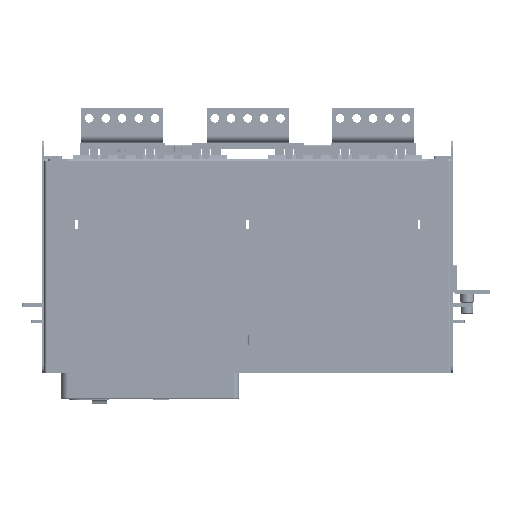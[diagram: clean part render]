
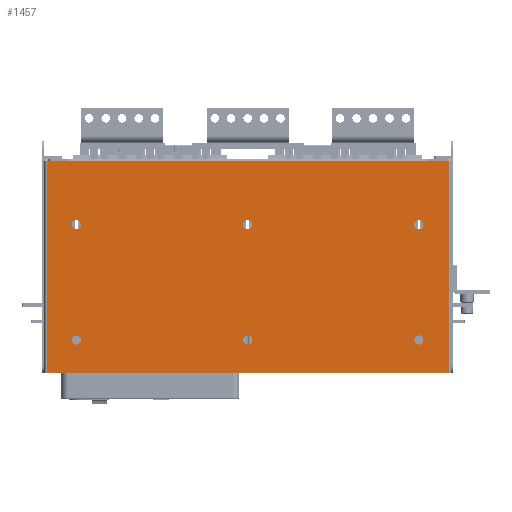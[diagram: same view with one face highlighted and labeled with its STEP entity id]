
A CAD part, front view. The second image highlights one B-rep face of the part: STEP entity #1457.
In plain terms, the highlighted planar face has unit normal (0, -1, 0).
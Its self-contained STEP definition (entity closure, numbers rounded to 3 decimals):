
#161=DIRECTION('',(0.,0.,1.));
#162=VECTOR('',#161,321.743);
#163=CARTESIAN_POINT('',(192.6,-3.2,-160.875));
#164=LINE('',#163,#162);
#169=DIRECTION('',(-1.,0.,0.));
#170=VECTOR('',#169,610.2);
#171=CARTESIAN_POINT('',(192.6,-3.2,-160.875));
#172=LINE('',#171,#170);
#173=CARTESIAN_POINT('',(147.5,-3.2,64.125));
#174=DIRECTION('',(0.,-1.,0.));
#175=DIRECTION('',(-1.,0.,0.));
#176=AXIS2_PLACEMENT_3D('',#173,#174,#175);
#178=CARTESIAN_POINT('',(147.5,-3.2,64.125));
#179=DIRECTION('',(0.,-1.,0.));
#180=DIRECTION('',(1.,0.,0.));
#181=AXIS2_PLACEMENT_3D('',#178,#179,#180);
#183=CARTESIAN_POINT('',(-372.5,-3.2,64.125));
#184=DIRECTION('',(0.,-1.,0.));
#185=DIRECTION('',(-1.,0.,0.));
#186=AXIS2_PLACEMENT_3D('',#183,#184,#185);
#188=CARTESIAN_POINT('',(-372.5,-3.2,64.125));
#189=DIRECTION('',(0.,-1.,0.));
#190=DIRECTION('',(1.,0.,0.));
#191=AXIS2_PLACEMENT_3D('',#188,#189,#190);
#193=CARTESIAN_POINT('',(-112.5,-3.2,64.125));
#194=DIRECTION('',(0.,-1.,0.));
#195=DIRECTION('',(-1.,0.,0.));
#196=AXIS2_PLACEMENT_3D('',#193,#194,#195);
#198=CARTESIAN_POINT('',(-112.5,-3.2,64.125));
#199=DIRECTION('',(0.,-1.,0.));
#200=DIRECTION('',(1.,0.,0.));
#201=AXIS2_PLACEMENT_3D('',#198,#199,#200);
#203=CARTESIAN_POINT('',(147.5,-3.2,-110.875));
#204=DIRECTION('',(0.,-1.,0.));
#205=DIRECTION('',(-1.,0.,0.));
#206=AXIS2_PLACEMENT_3D('',#203,#204,#205);
#208=CARTESIAN_POINT('',(147.5,-3.2,-110.875));
#209=DIRECTION('',(0.,-1.,0.));
#210=DIRECTION('',(1.,0.,0.));
#211=AXIS2_PLACEMENT_3D('',#208,#209,#210);
#213=CARTESIAN_POINT('',(-112.5,-3.2,-110.875));
#214=DIRECTION('',(0.,-1.,0.));
#215=DIRECTION('',(-1.,0.,0.));
#216=AXIS2_PLACEMENT_3D('',#213,#214,#215);
#218=CARTESIAN_POINT('',(-112.5,-3.2,-110.875));
#219=DIRECTION('',(0.,-1.,0.));
#220=DIRECTION('',(1.,0.,0.));
#221=AXIS2_PLACEMENT_3D('',#218,#219,#220);
#223=CARTESIAN_POINT('',(-372.5,-3.2,-110.875));
#224=DIRECTION('',(0.,-1.,0.));
#225=DIRECTION('',(-1.,0.,0.));
#226=AXIS2_PLACEMENT_3D('',#223,#224,#225);
#228=CARTESIAN_POINT('',(-372.5,-3.2,-110.875));
#229=DIRECTION('',(0.,-1.,0.));
#230=DIRECTION('',(1.,0.,0.));
#231=AXIS2_PLACEMENT_3D('',#228,#229,#230);
#237=DIRECTION('',(0.,0.,-1.));
#238=VECTOR('',#237,321.743);
#239=CARTESIAN_POINT('',(-417.6,-3.2,160.868));
#240=LINE('',#239,#238);
#599=DIRECTION('',(-1.,0.001,-0.001));
#600=VECTOR('',#599,30.6);
#601=CARTESIAN_POINT('',(192.6,-3.2,160.868));
#602=LINE('',#601,#600);
#700=DIRECTION('',(-1.,0.,0.));
#701=VECTOR('',#700,549.);
#702=CARTESIAN_POINT('',(162.,-3.184,160.853));
#703=LINE('',#702,#701);
#752=DIRECTION('',(-1.,-0.001,0.001));
#753=VECTOR('',#752,30.6);
#754=CARTESIAN_POINT('',(-387.,-3.184,160.853));
#755=LINE('',#754,#753);
#968=CARTESIAN_POINT('',(-417.6,-3.2,-160.875));
#969=VERTEX_POINT('',#968);
#970=CARTESIAN_POINT('',(192.6,-3.2,-160.875));
#971=VERTEX_POINT('',#970);
#1022=CARTESIAN_POINT('',(192.6,-3.2,160.868));
#1023=VERTEX_POINT('',#1022);
#1024=CARTESIAN_POINT('',(-417.6,-3.2,160.868));
#1025=VERTEX_POINT('',#1024);
#1026=CARTESIAN_POINT('',(-387.,-3.184,160.853));
#1027=VERTEX_POINT('',#1026);
#1028=CARTESIAN_POINT('',(162.,-3.184,160.853));
#1029=VERTEX_POINT('',#1028);
#1030=CARTESIAN_POINT('',(140.5,-3.2,64.125));
#1031=CARTESIAN_POINT('',(154.5,-3.2,64.125));
#1032=VERTEX_POINT('',#1030);
#1033=VERTEX_POINT('',#1031);
#1034=CARTESIAN_POINT('',(-379.5,-3.2,64.125));
#1035=CARTESIAN_POINT('',(-365.5,-3.2,64.125));
#1036=VERTEX_POINT('',#1034);
#1037=VERTEX_POINT('',#1035);
#1038=CARTESIAN_POINT('',(-119.5,-3.2,64.125));
#1039=CARTESIAN_POINT('',(-105.5,-3.2,64.125));
#1040=VERTEX_POINT('',#1038);
#1041=VERTEX_POINT('',#1039);
#1042=CARTESIAN_POINT('',(140.5,-3.2,-110.875));
#1043=CARTESIAN_POINT('',(154.5,-3.2,-110.875));
#1044=VERTEX_POINT('',#1042);
#1045=VERTEX_POINT('',#1043);
#1046=CARTESIAN_POINT('',(-119.5,-3.2,-110.875));
#1047=CARTESIAN_POINT('',(-105.5,-3.2,-110.875));
#1048=VERTEX_POINT('',#1046);
#1049=VERTEX_POINT('',#1047);
#1050=CARTESIAN_POINT('',(-379.5,-3.2,-110.875));
#1051=CARTESIAN_POINT('',(-365.5,-3.2,-110.875));
#1052=VERTEX_POINT('',#1050);
#1053=VERTEX_POINT('',#1051);
#1404=CARTESIAN_POINT('',(-421.3,-3.2,-160.875));
#1405=DIRECTION('',(0.,-1.,0.));
#1406=DIRECTION('',(1.,0.,0.));
#1407=AXIS2_PLACEMENT_3D('',#1404,#1405,#1406);
#1408=PLANE('',#1407);
#1409=ORIENTED_EDGE('',*,*,#1396,.F.);
#1410=ORIENTED_EDGE('',*,*,#1249,.T.);
#1412=ORIENTED_EDGE('',*,*,#1411,.F.);
#1414=ORIENTED_EDGE('',*,*,#1413,.F.);
#1416=ORIENTED_EDGE('',*,*,#1415,.F.);
#1418=ORIENTED_EDGE('',*,*,#1417,.F.);
#1419=EDGE_LOOP('',(#1409,#1410,#1412,#1414,#1416,#1418));
#1420=FACE_OUTER_BOUND('',#1419,.F.);
#1422=ORIENTED_EDGE('',*,*,#1421,.T.);
#1424=ORIENTED_EDGE('',*,*,#1423,.T.);
#1425=EDGE_LOOP('',(#1422,#1424));
#1426=FACE_BOUND('',#1425,.F.);
#1428=ORIENTED_EDGE('',*,*,#1427,.T.);
#1430=ORIENTED_EDGE('',*,*,#1429,.T.);
#1431=EDGE_LOOP('',(#1428,#1430));
#1432=FACE_BOUND('',#1431,.F.);
#1434=ORIENTED_EDGE('',*,*,#1433,.T.);
#1436=ORIENTED_EDGE('',*,*,#1435,.T.);
#1437=EDGE_LOOP('',(#1434,#1436));
#1438=FACE_BOUND('',#1437,.F.);
#1440=ORIENTED_EDGE('',*,*,#1439,.T.);
#1442=ORIENTED_EDGE('',*,*,#1441,.T.);
#1443=EDGE_LOOP('',(#1440,#1442));
#1444=FACE_BOUND('',#1443,.F.);
#1446=ORIENTED_EDGE('',*,*,#1445,.T.);
#1448=ORIENTED_EDGE('',*,*,#1447,.T.);
#1449=EDGE_LOOP('',(#1446,#1448));
#1450=FACE_BOUND('',#1449,.F.);
#1452=ORIENTED_EDGE('',*,*,#1451,.T.);
#1454=ORIENTED_EDGE('',*,*,#1453,.T.);
#1455=EDGE_LOOP('',(#1452,#1454));
#1456=FACE_BOUND('',#1455,.F.);
#1457=ADVANCED_FACE('',(#1420,#1426,#1432,#1438,#1444,#1450,#1456),#1408,.T.);
#177=CIRCLE('',#176,7.);
#182=CIRCLE('',#181,7.);
#187=CIRCLE('',#186,7.);
#192=CIRCLE('',#191,7.);
#197=CIRCLE('',#196,7.);
#202=CIRCLE('',#201,7.);
#207=CIRCLE('',#206,7.);
#212=CIRCLE('',#211,7.);
#217=CIRCLE('',#216,7.);
#222=CIRCLE('',#221,7.);
#227=CIRCLE('',#226,7.);
#232=CIRCLE('',#231,7.);
#1249=EDGE_CURVE('',#971,#969,#172,.T.);
#1396=EDGE_CURVE('',#971,#1023,#164,.T.);
#1411=EDGE_CURVE('',#1025,#969,#240,.T.);
#1413=EDGE_CURVE('',#1027,#1025,#755,.T.);
#1415=EDGE_CURVE('',#1029,#1027,#703,.T.);
#1417=EDGE_CURVE('',#1023,#1029,#602,.T.);
#1421=EDGE_CURVE('',#1032,#1033,#177,.T.);
#1423=EDGE_CURVE('',#1033,#1032,#182,.T.);
#1427=EDGE_CURVE('',#1036,#1037,#187,.T.);
#1429=EDGE_CURVE('',#1037,#1036,#192,.T.);
#1433=EDGE_CURVE('',#1040,#1041,#197,.T.);
#1435=EDGE_CURVE('',#1041,#1040,#202,.T.);
#1439=EDGE_CURVE('',#1044,#1045,#207,.T.);
#1441=EDGE_CURVE('',#1045,#1044,#212,.T.);
#1445=EDGE_CURVE('',#1048,#1049,#217,.T.);
#1447=EDGE_CURVE('',#1049,#1048,#222,.T.);
#1451=EDGE_CURVE('',#1052,#1053,#227,.T.);
#1453=EDGE_CURVE('',#1053,#1052,#232,.T.);
